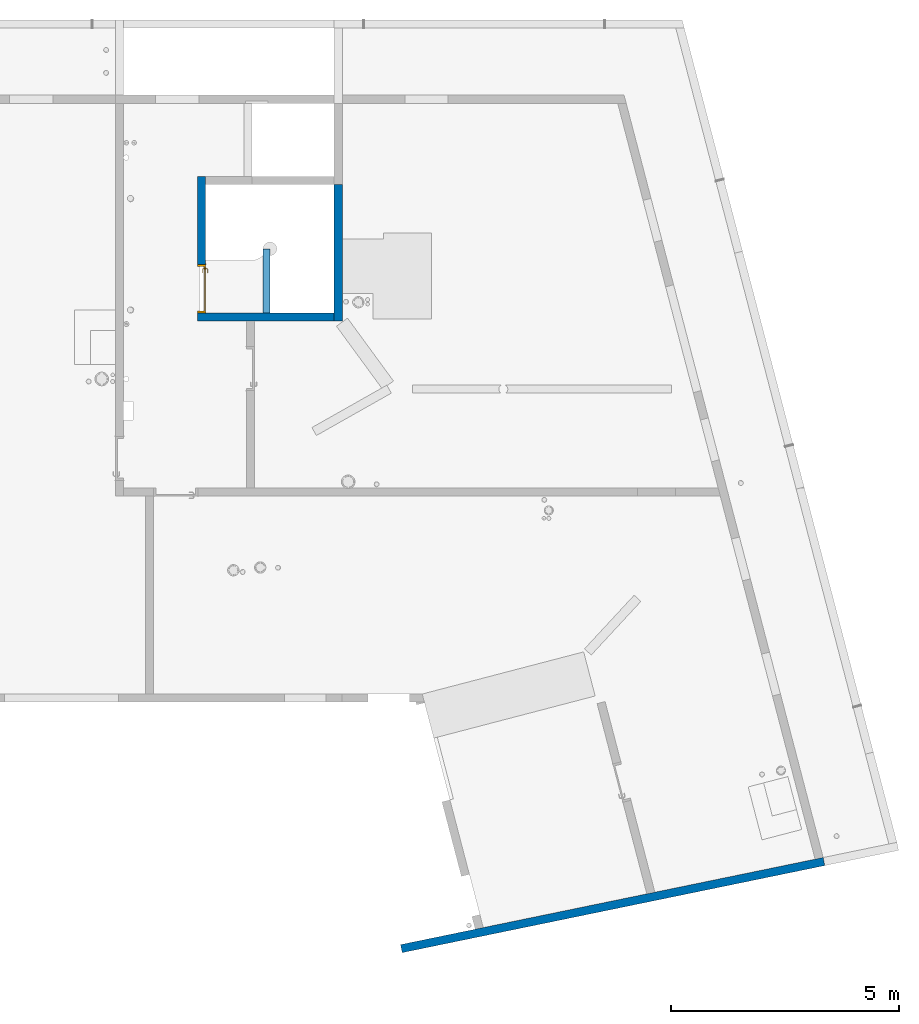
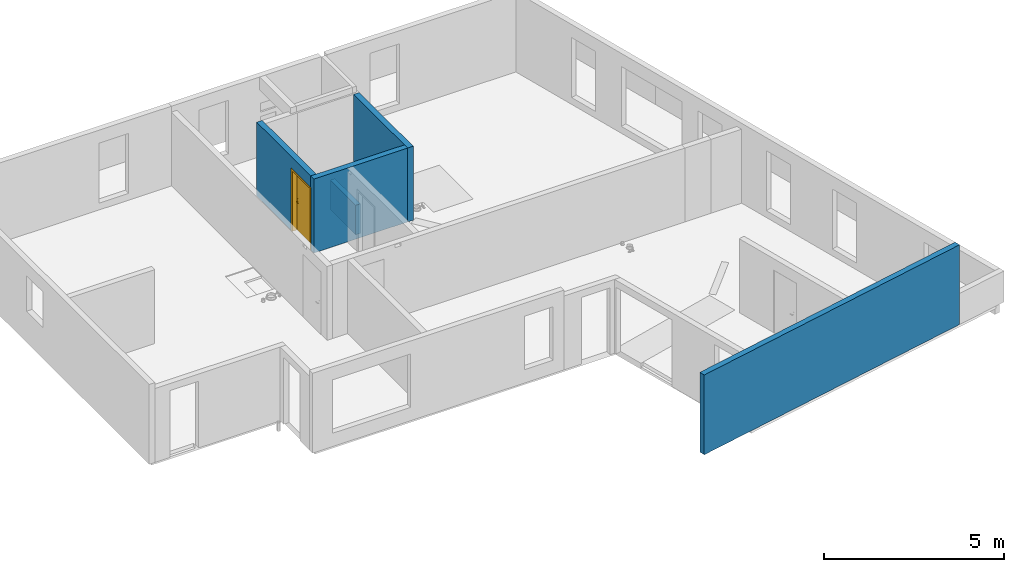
# One storey, part 15 of 28: 5 walls, 1 door, 2 openings.
"""IFC2X3 building model written with IfcOpenShell, lengths in centimetres."""

from ifc_helpers import new_model, entity, si_unit, converted_unit, derived_unit, direction, frame, frame_2d, origin, place, context, subcontext, project, spatial, rectangle, extrude, faceted_brep, source, transform, mapped, material, material_list, layer, layer_set, layer_usage, type_object, type_shapes, element, fill, save


model = new_model("IFC2X3")

# Units and contexts
model_context = context("Model", 3, precision=0.001, world=origin(), true_north=direction((6.12303176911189e-17, 1.0)))
body_context = subcontext(model_context, "Body", "Model", "MODEL_VIEW")
ifc_project = project(units=[si_unit("LENGTHUNIT", "METRE", prefix="CENTI"), si_unit("AREAUNIT", "SQUARE_METRE"), si_unit("VOLUMEUNIT", "CUBIC_METRE"), converted_unit("PLANEANGLEUNIT", "DEGREE", entity("IfcRatioMeasure", 0.0174532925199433), si_unit("PLANEANGLEUNIT", "RADIAN"), dimensions=[0, 0, 0, 0, 0, 0, 0]), si_unit("MASSUNIT", "GRAM", prefix="KILO"), derived_unit("MASSDENSITYUNIT", [(si_unit("MASSUNIT", "GRAM", prefix="KILO"), 1), (si_unit("LENGTHUNIT", "METRE"), -3)]), si_unit("TIMEUNIT", "SECOND"), si_unit("FREQUENCYUNIT", "HERTZ"), si_unit("THERMODYNAMICTEMPERATUREUNIT", "DEGREE_CELSIUS"), derived_unit("THERMALTRANSMITTANCEUNIT", [(si_unit("MASSUNIT", "GRAM", prefix="KILO"), 1), (si_unit("THERMODYNAMICTEMPERATUREUNIT", "KELVIN"), -1), (si_unit("TIMEUNIT", "SECOND"), -3)]), derived_unit("VOLUMETRICFLOWRATEUNIT", [(si_unit("LENGTHUNIT", "METRE"), 3), (si_unit("TIMEUNIT", "SECOND"), -1)]), si_unit("ELECTRICCURRENTUNIT", "AMPERE"), si_unit("ELECTRICVOLTAGEUNIT", "VOLT"), si_unit("POWERUNIT", "WATT"), si_unit("FORCEUNIT", "NEWTON"), si_unit("ILLUMINANCEUNIT", "LUX"), si_unit("LUMINOUSFLUXUNIT", "LUMEN"), si_unit("LUMINOUSINTENSITYUNIT", "CANDELA"), derived_unit("USERDEFINED", [(si_unit("MASSUNIT", "GRAM", prefix="KILO"), -1), (si_unit("LENGTHUNIT", "METRE"), -2), (si_unit("TIMEUNIT", "SECOND"), 3), (si_unit("LUMINOUSFLUXUNIT", "LUMEN"), 1)]), derived_unit("LINEARVELOCITYUNIT", [(si_unit("LENGTHUNIT", "METRE"), 1), (si_unit("TIMEUNIT", "SECOND"), -1)]), si_unit("PRESSUREUNIT", "PASCAL"), derived_unit("USERDEFINED", [(si_unit("LENGTHUNIT", "METRE"), -2), (si_unit("MASSUNIT", "GRAM", prefix="KILO"), 1), (si_unit("TIMEUNIT", "SECOND"), -2)])], contexts=[model_context])

# Site, building, storey
site_placement = place(None, origin())
site = spatial("IfcSite", under=ifc_project, at=site_placement, Name="Default", CompositionType="ELEMENT")
building_placement = place(site_placement, origin())
building = spatial("IfcBuilding", under=site, at=building_placement, Name="CAGE 03", CompositionType="ELEMENT")
storey_placement = place(building_placement, frame((0.0, 0.0, 1420.0)))
storey = spatial("IfcBuildingStorey", under=building, at=storey_placement, Name="R+5", CompositionType="ELEMENT", Elevation=1420.0)

# Wall, opening
ifc_material_1 = material(Name="Béton, panneaux préfa 30/37")
ifc_layer_1 = layer(ifc_material_1, 5.5)
ifc_material_2 = material(Name="Béton, C25/30")
ifc_layer_2 = layer(ifc_material_2, 7.0)
ifc_layer_3 = layer(ifc_material_1, 5.5)
ifc_layer_set_1 = layer_set([ifc_layer_1, ifc_layer_2, ifc_layer_3], Name="Mur de base:premur 18")
ifc_layer_usage_1 = layer_usage(ifc_layer_set_1, "AXIS2", "NEGATIVE", 9.0)
wall_type_1 = type_object("IfcWallType", Name="Mur de base:premur 18", PredefinedType="NOTDEFINED")
wall_1_placement = place(storey_placement, frame((10490.3658201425, 4641.66066607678, 0.0), z_axis=(0.0, 0.0, 1.0), x_axis=(-1.0, 0.0, 0.0)))
wall_1 = element("IfcWallStandardCase", 1, at=wall_1_placement, inside=storey, type_object=wall_type_1, material=ifc_layer_usage_1, Name="Mur de base:premur 18", ObjectType="Mur de base:premur 18", context=body_context, shape_type="SweptSolid", body=[
    extrude(rectangle(XDim=300.000000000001, YDim=17.9999999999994, at=frame_2d((150.000000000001, 1.4210854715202e-13), x_axis=(-1.0, 0.0))), origin(), (0.0, 0.0, 1.0), 250.0),
])
opening_1_placement = place(wall_1_placement, origin())
element("IfcOpeningElement", 2, at=opening_1_placement, cuts=wall_1, Name="Mur de base:premur 18", ObjectType="Opening", context=body_context, shape_type="SweptSolid", body=[
    extrude(rectangle(XDim=210.000000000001, YDim=17.9999999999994, at=frame_2d((0.0, -1.06581410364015e-13), x_axis=(0.0, 1.0))), frame((291.0, -116.0, 105.0), z_axis=(0.0, 1.0, 0.0), x_axis=(-1.0, 0.0, 0.0)), (0.0, 0.0, 1.0), 106.999999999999),
])

# Wall, opening, door
ifc_layer_usage_2 = layer_usage(ifc_layer_set_1, "AXIS2", "NEGATIVE", 9.0)
wall_2_placement = place(storey_placement, frame((10199.3658201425, 4650.66066607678, 0.0), z_axis=(0.0, 0.0, 1.0), x_axis=(0.0, 1.0, 0.0)))
wall_2 = element("IfcWallStandardCase", 3, at=wall_2_placement, inside=storey, type_object=wall_type_1, material=ifc_layer_usage_2, Name="Mur de base:premur 18", ObjectType="Mur de base:premur 18", context=body_context, shape_type="SweptSolid", body=[
    extrude(rectangle(XDim=300.000000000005, YDim=17.9999999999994, at=frame_2d((150.000000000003, -1.4299672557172e-13), x_axis=(-1.0, 0.0))), origin(), (0.0, 0.0, 1.0), 250.0),
])
opening_2_placement = place(wall_2_placement, frame((107.0, 9.0, 0.0)))
opening_2 = element("IfcOpeningElement", 4, at=opening_2_placement, cuts=wall_2, Name="Int. Simple:HB103:1", ObjectType="Opening", context=body_context, shape_type="SweptSolid", body=[
    extrude(rectangle(XDim=210.000000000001, YDim=107.0, at=frame_2d((105.000000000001, 53.4999999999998), x_axis=(1.0, 0.0))), frame((0.0, 0.0, 0.0), z_axis=(0.0, -1.0, 0.0), x_axis=(0.0, 0.0, 1.0)), (0.0, 0.0, 1.0), 18.0),
])
ifc_material_3 = material(Name="Finition Peinture - Blanc satiné")
ifc_material_4 = material(Name="Bois - Panneau de porte")
ifc_material_5 = material(Name="Bois - Cadre de porte")
ifc_material_list_1 = material_list([ifc_material_3, ifc_material_4, ifc_material_5])
ifc_material_list_2 = material_list([ifc_material_3, ifc_material_4, ifc_material_5])
door_style = type_object("IfcDoorStyle", Name="HB103", ConstructionType="NOTDEFINED", OperationType="SINGLE_SWING_RIGHT", ParameterTakesPrecedence=False, Sizeable=False, material=ifc_material_list_2)
shared_shape = source(origin(), body_context, "Body", "Brep", [
    faceted_brep([(106.500000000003, -0.500000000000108, 87.0), (106.500000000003, -0.500000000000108, 108.0), (105.535276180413, -0.500000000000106, 108.399601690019), (104.500000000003, -0.500000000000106, 108.535898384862), (103.464723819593, -0.500000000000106, 108.399601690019), (102.500000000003, -0.500000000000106, 108.0), (102.500000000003, -0.500000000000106, 87.0), (103.464723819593, -0.500000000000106, 86.6003983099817), (104.500000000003, -0.500000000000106, 86.464101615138), (105.535276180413, -0.500000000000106, 86.6003983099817), (106.500000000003, 0.0, 108.0), (106.500000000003, 0.0, 87.0), (105.535276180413, 0.0, 86.6003983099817), (104.500000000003, 0.0, 86.464101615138), (103.464723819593, 0.0, 86.6003983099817), (102.500000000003, 0.0, 87.0), (102.500000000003, 0.0, 108.0), (103.464723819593, 0.0, 108.399601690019), (104.500000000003, 0.0, 108.535898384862), (105.535276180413, 0.0, 108.399601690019)], [[[0, 1, 2, 3, 4, 5, 6, 7, 8, 9]], [[10, 11, 12, 13, 14, 15, 16, 17, 18, 19]], [[9, 12, 11, 0]], [[8, 13, 12, 9]], [[7, 14, 13, 8]], [[7, 6, 15, 14]], [[15, 6, 5, 16]], [[4, 17, 16, 5]], [[3, 18, 17, 4]], [[2, 19, 18, 3]], [[2, 1, 10, 19]], [[11, 10, 1, 0]]]),
    faceted_brep([(106.500000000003, 3.0, 87.0), (106.500000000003, 3.0, 108.0), (105.535276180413, 3.0, 108.399601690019), (104.500000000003, 3.0, 108.535898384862), (103.464723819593, 3.0, 108.399601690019), (102.500000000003, 3.0, 108.0), (102.500000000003, 3.0, 87.0), (103.464723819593, 3.0, 86.6003983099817), (104.500000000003, 3.0, 86.464101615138), (105.535276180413, 3.0, 86.6003983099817), (104.500000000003, 3.49999999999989, 108.535898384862), (105.535276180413, 3.49999999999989, 108.399601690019), (106.500000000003, 3.49999999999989, 108.0), (106.500000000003, 3.49999999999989, 87.0), (105.535276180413, 3.49999999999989, 86.6003983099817), (104.500000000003, 3.49999999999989, 86.464101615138), (103.464723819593, 3.49999999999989, 86.6003983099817), (102.500000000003, 3.49999999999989, 87.0), (102.500000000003, 3.49999999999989, 108.0), (103.464723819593, 3.49999999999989, 108.399601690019)], [[[0, 1, 2, 3, 4, 5, 6, 7, 8, 9]], [[10, 11, 12, 13, 14, 15, 16, 17, 18, 19]], [[4, 19, 18, 5]], [[3, 10, 19, 4]], [[2, 11, 10, 3]], [[2, 1, 12, 11]], [[13, 12, 1, 0]], [[9, 14, 13, 0]], [[8, 15, 14, 9]], [[7, 16, 15, 8]], [[7, 6, 17, 16]], [[17, 6, 5, 18]]]),
    faceted_brep([(104.297470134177, -0.500000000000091, 100.778044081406), (104.702529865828, -0.500000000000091, 100.778044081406), (105.100000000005, -0.500000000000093, 100.699999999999), (105.100000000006, -0.500000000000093, 99.299999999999), (104.702529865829, -0.500000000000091, 99.2219559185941), (104.297470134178, -0.500000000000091, 99.2219559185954), (103.9, -0.500000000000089, 99.3000000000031), (103.9, -0.500000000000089, 100.7), (104.702529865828, -3.1004575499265, 100.778044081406), (105.100000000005, -3.26509507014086, 100.7), (104.297470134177, -2.93267631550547, 100.778044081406), (102.92986024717, -4.30028620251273, 100.778044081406), (103.097641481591, -4.70534593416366, 100.778044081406), (103.9, -2.76803879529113, 100.7), (103.9, -2.76803879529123, 99.3000000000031), (104.297470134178, -2.93267631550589, 99.2219559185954), (104.702529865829, -3.10045754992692, 99.2219559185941), (103.097641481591, -4.70534593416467, 99.2219559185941), (102.92986024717, -4.30028620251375, 99.2219559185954), (105.100000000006, -3.26509507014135, 99.299999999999), (103.262279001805, -5.10281606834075, 100.7), (102.765222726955, -3.90281606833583, 100.7), (102.765222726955, -3.90281606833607, 99.3000000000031), (103.262279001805, -5.10281606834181, 99.299999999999), (94.4981359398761, -5.1028160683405, 100.7), (94.4981359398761, -4.7053459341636, 100.778044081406), (94.4981359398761, -4.30028620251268, 100.778044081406), (94.4981359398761, -3.90281606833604, 100.699999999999), (94.4981359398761, -3.90281606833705, 99.3000000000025), (94.4981359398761, -4.30028620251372, 99.2219559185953), (94.4981359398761, -4.70534593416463, 99.2219559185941), (94.4981359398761, -5.10281606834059, 99.2999999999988), (98.7139980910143, -4.50281606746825, 100.78786867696), (99.2692302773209, -5.10281606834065, 100.7), (98.6316793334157, -3.90281606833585, 100.7), (98.6316793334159, -3.90281606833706, 99.3000000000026), (98.7139981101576, -4.50281607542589, 99.2121313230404), (99.2692299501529, -5.10281606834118, 99.2999999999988)], [[[0, 1, 2, 3, 4, 5, 6, 7]], [[2, 1, 8, 9]], [[1, 0, 10, 11, 12, 8]], [[0, 7, 13, 10]], [[14, 13, 7, 6]], [[5, 15, 14, 6]], [[5, 4, 16, 17, 18, 15]], [[3, 19, 16, 4]], [[9, 19, 3, 2]], [[9, 8, 12, 20]], [[10, 13, 21, 11]], [[22, 21, 13, 14]], [[14, 15, 18, 22]], [[16, 19, 23, 17]], [[20, 23, 19, 9]], [[24, 25, 26, 27, 28, 29, 30, 31]], [[32, 25, 33]], [[33, 25, 24]], [[33, 20, 12]], [[11, 34, 32]], [[34, 11, 21]], [[27, 26, 34]], [[32, 26, 25]], [[32, 34, 26]], [[32, 33, 12]], [[11, 32, 12]], [[21, 22, 35, 28, 27, 34]], [[36, 29, 35]], [[30, 36, 37]], [[18, 35, 22]], [[29, 28, 35]], [[30, 37, 31]], [[37, 17, 23]], [[36, 17, 37]], [[36, 18, 17]], [[36, 35, 18]], [[29, 36, 30]], [[23, 20, 33, 24, 31, 37]]]),
    faceted_brep([(104.297470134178, 3.49999999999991, 99.2219559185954), (104.702529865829, 3.49999999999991, 99.2219559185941), (105.100000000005, 3.4999999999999, 99.2999999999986), (105.100000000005, 3.4999999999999, 100.7), (104.702529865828, 3.49999999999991, 100.778044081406), (104.297470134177, 3.49999999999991, 100.778044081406), (103.9, 3.49999999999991, 100.7), (103.900000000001, 3.49999999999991, 99.3000000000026), (103.9, 5.74852045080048, 100.7), (103.9, 5.74852045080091, 99.3000000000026), (104.297470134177, 5.91315797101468, 100.778044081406), (104.702529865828, 6.08093920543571, 100.778044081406), (103.083890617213, 7.69957845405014, 100.778044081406), (102.916109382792, 7.29451872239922, 100.778044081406), (105.100000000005, 6.24557672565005, 100.7), (105.100000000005, 6.2455767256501, 99.2999999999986), (104.702529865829, 6.08093920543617, 99.2219559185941), (104.297470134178, 5.91315797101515, 99.2219559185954), (102.916109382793, 7.29451872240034, 99.2219559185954), (103.083890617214, 7.69957845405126, 99.2219559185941), (102.751471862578, 6.89704858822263, 100.7), (102.751471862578, 6.89704858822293, 99.3000000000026), (103.248528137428, 8.09704858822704, 100.7), (103.248528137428, 8.09704858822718, 99.2999999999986), (94.4954216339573, 7.29451872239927, 100.778044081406), (94.4954216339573, 7.6995784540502, 100.778044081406), (94.4954216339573, 8.0970485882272, 100.7), (94.4954216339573, 8.09704858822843, 99.299999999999), (94.4954216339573, 7.6995784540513, 99.2219559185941), (94.4954216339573, 7.29451872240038, 99.2219559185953), (94.4954216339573, 6.89704858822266, 99.3000000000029), (94.4954216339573, 6.89704858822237, 100.7), (98.6234467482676, 6.89704858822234, 100.7), (98.6234479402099, 6.89704858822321, 99.3000000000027), (98.7057655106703, 7.4970485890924, 100.78786867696), (99.255479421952, 8.09704858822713, 100.7), (99.2554794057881, 8.09704858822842, 99.299999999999), (98.7057654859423, 7.49704858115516, 99.2121313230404)], [[[0, 1, 2, 3, 4, 5, 6, 7]], [[8, 9, 7, 6]], [[5, 10, 8, 6]], [[5, 4, 11, 12, 13, 10]], [[3, 14, 11, 4]], [[14, 3, 2, 15]], [[2, 1, 16, 15]], [[1, 0, 17, 18, 19, 16]], [[0, 7, 9, 17]], [[20, 21, 9, 8]], [[8, 10, 13, 20]], [[14, 22, 12, 11]], [[23, 22, 14, 15]], [[15, 16, 19, 23]], [[17, 9, 21, 18]], [[24, 25, 26, 27, 28, 29, 30, 31]], [[20, 32, 31, 30, 33, 21]], [[34, 24, 32]], [[25, 34, 35]], [[13, 32, 20]], [[24, 31, 32]], [[25, 35, 26]], [[35, 12, 22]], [[34, 12, 35]], [[34, 13, 12]], [[34, 32, 13]], [[24, 34, 25]], [[22, 23, 36, 27, 26, 35]], [[37, 28, 36]], [[36, 28, 27]], [[36, 23, 19]], [[18, 33, 37]], [[33, 18, 21]], [[30, 29, 33]], [[37, 29, 28]], [[37, 33, 29]], [[37, 36, 19]], [[18, 37, 19]]]),
    faceted_brep([(110.500000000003, 3.0, 206.5), (110.500000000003, 3.0, 0.0), (10.5000000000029, 3.0, 0.0), (10.5000000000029, 3.0, 206.5), (110.500000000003, 0.0, 206.5), (10.5000000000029, 0.0, 206.5), (10.5000000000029, 0.0, 0.0), (110.500000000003, 0.0, 0.0)], [[[0, 1, 2, 3]], [[4, 5, 6, 7]], [[3, 5, 4, 0]], [[2, 6, 5, 3]], [[1, 7, 6, 2]], [[0, 4, 7, 1]]]),
    faceted_brep([(114.0, 0.0, 0.0), (110.500000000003, 0.0, 0.0), (110.500000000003, 3.0, 0.0), (109.0, 3.0, 0.0), (109.0, 18.0, 0.0), (114.0, 18.0, 0.0), (114.0, 18.0, 210.0), (114.0, 0.0, 210.0), (109.0, 18.0, 205.0), (12.0, 18.0, 205.0), (12.0, 18.0, 0.0), (7.0, 18.0, 0.0), (7.0, 18.0, 210.0), (109.0, 3.0, 205.0), (110.500000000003, 3.0, 206.5), (10.5000000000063, 3.0, 206.5), (10.5000000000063, 3.0, 0.0), (12.0, 3.0, 0.0), (12.0, 3.0, 205.0), (110.500000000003, 0.0, 206.5), (7.0, 0.0, 210.0), (7.0, 0.0, 0.0), (10.5000000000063, 0.0, 0.0), (10.5000000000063, 0.0, 206.5)], [[[0, 1, 2, 3, 4, 5]], [[5, 6, 7, 0]], [[4, 8, 9, 10, 11, 12, 6, 5]], [[3, 13, 8, 4]], [[2, 14, 15, 16, 17, 18, 13, 3]], [[1, 19, 14, 2]], [[0, 7, 20, 21, 22, 23, 19, 1]], [[12, 11, 21, 20]], [[21, 11, 10, 17, 16, 22]], [[18, 17, 10, 9]], [[23, 22, 16, 15]], [[6, 12, 20, 7]], [[13, 18, 9, 8]], [[19, 23, 15, 14]]]),
    faceted_brep([(112.500000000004, 18.0, 0.0), (112.500000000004, 18.5000000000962, 0.0), (115.500000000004, 18.5000000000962, 0.0), (115.500000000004, 18.0, 0.0), (115.500000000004, 18.0, 211.500000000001), (5.50000000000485, 18.0, 211.500000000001), (5.50000000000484, 18.0, 0.0), (8.50000000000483, 18.0, 0.0), (8.50000000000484, 18.0, 208.500000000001), (112.500000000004, 18.0, 208.500000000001), (115.500000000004, 18.5000000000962, 211.500000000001), (112.500000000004, 18.5000000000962, 208.500000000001), (8.50000000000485, 18.5000000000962, 208.500000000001), (8.50000000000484, 18.5000000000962, 0.0), (5.50000000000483, 18.5000000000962, 0.0), (5.50000000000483, 18.5000000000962, 211.500000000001)], [[[0, 1, 2, 3]], [[3, 4, 5, 6, 7, 8, 9, 0]], [[2, 10, 4, 3]], [[1, 11, 12, 13, 14, 15, 10, 2]], [[0, 9, 11, 1]], [[7, 6, 14, 13]], [[8, 7, 13, 12]], [[15, 14, 6, 5]], [[10, 15, 5, 4]], [[9, 8, 12, 11]]]),
    faceted_brep([(115.500000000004, -0.5, 0.0), (115.500000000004, -0.5, 211.500000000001), (5.50000000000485, -0.5, 211.500000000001), (5.50000000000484, -0.5, 0.0), (8.50000000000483, -0.5, 0.0), (8.50000000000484, -0.5, 208.500000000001), (112.500000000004, -0.5, 208.500000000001), (112.500000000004, -0.5, 0.0), (115.500000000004, 0.0, 0.0), (115.500000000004, 0.0, 211.500000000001), (112.500000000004, 0.0, 0.0), (112.500000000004, 0.0, 208.500000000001), (8.50000000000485, 0.0, 208.500000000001), (8.50000000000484, 0.0, 0.0), (5.50000000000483, 0.0, 0.0), (5.50000000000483, 0.0, 211.500000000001)], [[[0, 1, 2, 3, 4, 5, 6, 7]], [[8, 9, 1, 0]], [[10, 11, 12, 13, 14, 15, 9, 8]], [[7, 6, 11, 10]], [[5, 4, 13, 12]], [[15, 14, 3, 2]], [[9, 15, 2, 1]], [[6, 5, 12, 11]], [[4, 3, 14, 13]], [[7, 10, 8, 0]]]),
])
type_shapes(door_style, [shared_shape])
door_placement = place(opening_2_placement, frame((-114.0, -18.0, 0.0)))
door = element("IfcDoor", 5, at=door_placement, inside=storey, type_object=door_style, material=ifc_material_list_1, Name="Int. Simple:HB103", ObjectType="HB103", OverallHeight=210.000000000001, OverallWidth=107.0, context=body_context, shape_type="MappedRepresentation", body=[
    mapped(shared_shape, transform((0.0, 0.0, 0.0), scale=1.0)),
])
fill(opening_2, door)

# Walls
ifc_layer_usage_3 = layer_usage(ifc_layer_set_1, "AXIS2", "POSITIVE", -9.0)
wall_3_placement = place(storey_placement, frame((10637.7468620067, 3255.95402323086, 0.0), z_axis=(0.0, 0.0, 1.0), x_axis=(0.979414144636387, 0.201861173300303, 0.0)))
element("IfcWallStandardCase", 6, at=wall_3_placement, inside=storey, type_object=wall_type_1, material=ifc_layer_usage_3, Name="Mur de base:premur 18", ObjectType="Mur de base:premur 18", context=body_context, shape_type="SweptSolid", body=[
    extrude(rectangle(XDim=946.789185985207, YDim=18.0, at=frame_2d((473.394592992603, -1.36779476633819e-13), x_axis=(-1.0, 0.0))), origin(), (0.0, 0.0, 1.0), 270.0),
])
ifc_layer_usage_4 = layer_usage(ifc_layer_set_1, "AXIS2", "POSITIVE", -9.0)
wall_4_placement = place(storey_placement, frame((10499.3658201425, 4932.66066607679, 0.0), z_axis=(0.0, 0.0, 1.0), x_axis=(0.0, -1.0, 0.0)))
element("IfcWallStandardCase", 7, at=wall_4_placement, inside=storey, type_object=wall_type_1, material=ifc_layer_usage_4, Name="Mur de base:premur 18", ObjectType="Mur de base:premur 18", context=body_context, shape_type="SweptSolid", body=[
    extrude(rectangle(XDim=300.000000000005, YDim=17.9999999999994, at=frame_2d((150.000000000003, 2.02504679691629e-13), x_axis=(-1.0, 0.0))), origin(), (0.0, 0.0, 1.0), 250.0),
])
ifc_layer_4 = layer(ifc_material_2, 15.0)
ifc_layer_set_2 = layer_set([ifc_layer_4], Name="Mur de base:Voile BA 15")
ifc_layer_usage_5 = layer_usage(ifc_layer_set_2, "AXIS2", "POSITIVE", -7.5)
wall_type_2 = type_object("IfcWallType", Name="Mur de base:Voile BA 15", PredefinedType="STANDARD", material=ifc_layer_set_2)
wall_5_placement = place(storey_placement, frame((10341.8658201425, 4791.66066607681, 0.0), z_axis=(0.0, 0.0, 1.0), x_axis=(0.0, -1.0, 0.0)))
element("IfcWallStandardCase", 8, at=wall_5_placement, inside=storey, type_object=wall_type_2, material=ifc_layer_usage_5, Name="Mur de base:Voile BA 15", ObjectType="Mur de base:Voile BA 15", context=body_context, shape_type="SweptSolid", body=[
    extrude(rectangle(XDim=141.000000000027, YDim=15.0000000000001, at=frame_2d((70.5000000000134, 9.45910016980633e-14), x_axis=(-1.0, 0.0))), origin(), (0.0, 0.0, 1.0), 99.9999999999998),
])

save(model, "model.ifc")
